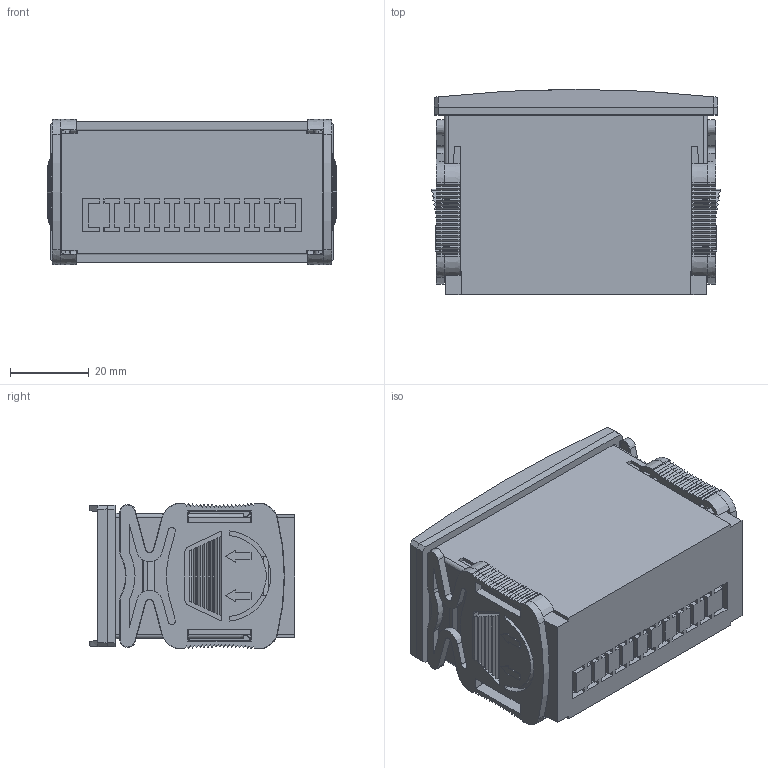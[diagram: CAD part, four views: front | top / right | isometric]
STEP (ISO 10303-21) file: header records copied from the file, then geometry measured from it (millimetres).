
FILE_DESCRIPTION (( 'STEP AP203' ), '1' );
FILE_NAME ('PPT115.STEP', '2021-02-01T13:51:32', ( '' ), ( '' ), 'SwSTEP 2.0', 'SolidWorks 2020', '' );
FILE_SCHEMA (( 'CONFIG_CONTROL_DESIGN' ));
Length unit declared in the file: millimetre
Products named in the file (4): PPT115
Assembly tree (4 placements, depth 2):
  PPT115
    PPT115
    PPT115
    PPT115  x2
Bounding box: 73.42 x 52 x 36.99 mm (x, y, z)
Volume: 25819.9 mm3; surface area: 38481 mm2
Topology: 4 solids, 4 shells, 1131 faces, 3053 edges, 1950 vertices
Faces by surface type: plane 804, cone 246, cylinder 70, bspline 11
Entity records: 23845 total; most frequent: CARTESIAN_POINT 5253, ORIENTED_EDGE 3986, DIRECTION 3447, EDGE_CURVE 1993, VECTOR 1521, LINE 1521, VERTEX_POINT 1288, AXIS2_PLACEMENT_3D 963
